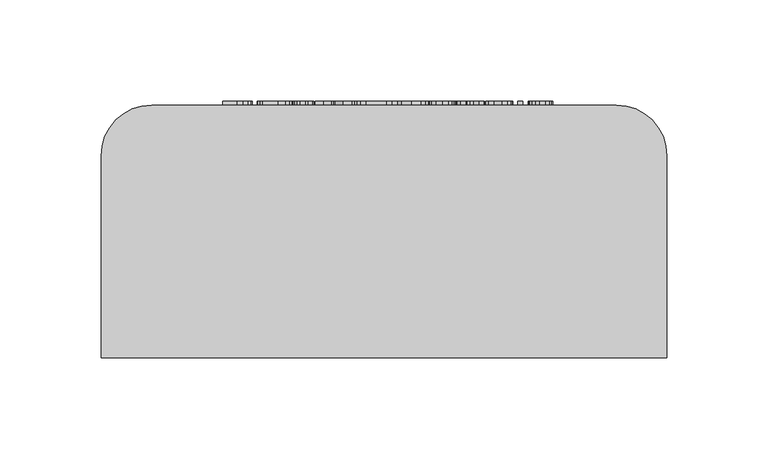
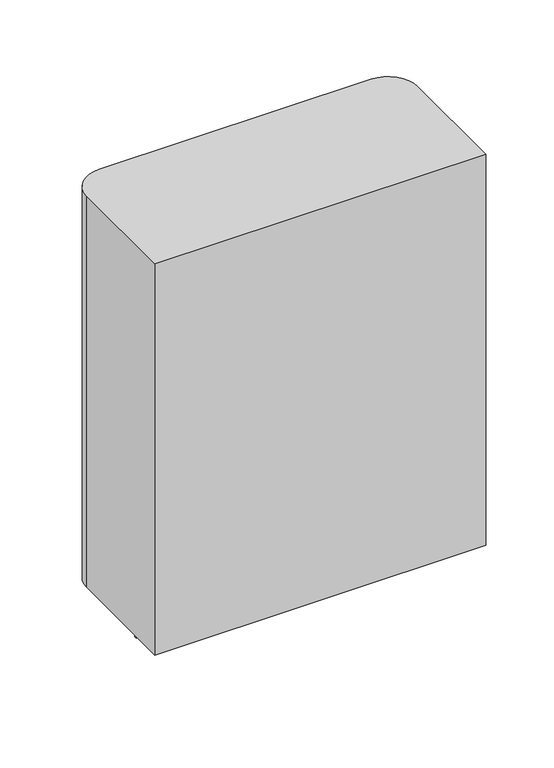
"""IFC4 building model written with IfcOpenShell, lengths in millimetres: furniture geometry, BIMHealth-Paper_Towel_Dispenser-LOD2A-v1 : BIMHealth-Paper_Towel_Dispenser-LOD2A-v1."""

from ifc_helpers import new_model, si_unit, frame, origin, place, context, project, spatial, polyline, circle_curve, outline, extrude, source, transform, mapped, element, save
from ifc_brep_helpers import plane_surface, cylinder_surface, revolved_surface, advanced_brep


def furniture_c0bff915(model_context):
    return source(origin(), model_context, "Body", "SolidModel", [
        extrude(outline(polyline([(1486.0993641, 80.0917119), (1486.0993641, 87.5484427), (1486.4383065, 90.7046927), (1487.4383065, 92.8465196), (1489.3229218, 94.2816158), (1491.9695565, 94.8609427), (1495.0320565, 94.012385), (1496.8685949, 91.5869042), (1498.6113834, 93.5845004), (1500.9118641, 94.2455581), (1503.4310949, 93.4595004), (1505.2123449, 91.2864234), (1505.7916718, 87.606135), (1505.7916718, 80.0917119), (1486.0993641, 80.0917119)]), holes=[polyline([(1497.7916718, 82.5532504), (1503.3301334, 82.5532504), (1503.3301334, 86.7070965), (1503.0729218, 89.8705581), (1502.1234026, 91.2888273), (1500.5176334, 91.7840196), (1498.914268, 91.2527696), (1498.0032103, 89.6734427), (1497.7916718, 87.0484427), (1497.7916718, 82.5532504)]), polyline([(1488.5609026, 82.5532504), (1495.3301334, 82.5532504), (1495.3301334, 87.3609427), (1495.0008065, 90.4018081), (1493.8589795, 91.9282504), (1491.945518, 92.3994042), (1489.1931141, 90.9739234), (1488.6570565, 89.4282504), (1488.5609026, 87.6013273), (1488.5609026, 82.5532504)])]), frame((0.0, 125.0, 0.0), z_axis=(0.0, 1.0, 0.0), x_axis=(0.0, 0.0, 1.0)), (0.0, 0.0, 1.0), 2.0),
        extrude(outline(polyline([(101.0147888, 127.0), (101.0147888, 125.0), (98.5532504, 125.0), (98.5532504, 127.0), (101.0147888, 127.0)])), frame((0.0, 0.0, 1486.0993641), z_axis=(0.0, 0.0, 1.0), x_axis=(1.0, 0.0, 0.0)), (0.0, 0.0, 1.0), 19.6923077),
        extrude(outline(polyline([(1486.0993641, 105.9378658), (1486.0993641, 108.3994042), (1503.3301334, 108.3994042), (1486.0993641, 113.3513273), (1486.0993641, 116.6830581), (1503.3301334, 121.6301734), (1486.0993641, 121.6301734), (1486.0993641, 124.0917119), (1505.7916718, 124.0917119), (1505.7916718, 119.856135), (1492.1522488, 115.8945965), (1489.0128257, 115.0147888), (1491.9118641, 114.1974811), (1505.7916718, 110.1590196), (1505.7916718, 105.9378658), (1486.0993641, 105.9378658)])), frame((0.0, 125.0, 0.0), z_axis=(0.0, 1.0, 0.0), x_axis=(0.0, 0.0, 1.0)), (0.0, 0.0, 1.0), 2.0),
        extrude(outline(polyline([(1486.0993641, 128.3994042), (1486.0993641, 130.8609427), (1495.3301334, 130.8609427), (1495.3301334, 141.3224811), (1486.0993641, 141.3224811), (1486.0993641, 143.7840196), (1505.7916718, 143.7840196), (1505.7916718, 141.3224811), (1497.7916718, 141.3224811), (1497.7916718, 130.8609427), (1505.7916718, 130.8609427), (1505.7916718, 128.3994042), (1486.0993641, 128.3994042)])), frame((0.0, 125.0, 0.0), z_axis=(0.0, 1.0, 0.0), x_axis=(0.0, 0.0, 1.0)), (0.0, 0.0, 1.0), 2.0),
        extrude(outline(polyline([(1490.4070565, 157.9090196), (1488.7676334, 156.3224811), (1488.2532103, 153.9090196), (1489.3637872, 150.7383465), (1492.5609026, 149.3224811), (1493.2243641, 160.3994042), (1498.8637872, 158.5316158), (1500.8685949, 153.7215196), (1498.8589795, 148.7695965), (1493.2099411, 146.8609427), (1487.7411911, 148.7503658), (1485.7916718, 153.8609427), (1486.9214795, 158.0652696), (1490.0993641, 160.3224811), (1490.4070565, 157.9090196)]), holes=[polyline([(1495.0224411, 149.3224811), (1497.4863834, 150.6806542), (1498.4070565, 153.7119042), (1497.2532103, 156.9522888), (1495.0224411, 157.9378658), (1495.0224411, 149.3224811)])]), frame((0.0, 125.0, 0.0), z_axis=(0.0, 1.0, 0.0), x_axis=(0.0, 0.0, 1.0)), (0.0, 0.0, 1.0), 2.0),
        extrude(outline(polyline([(1487.945518, 172.0917119), (1486.0993641, 172.7070965), (1486.0993641, 175.168635), (1488.1690757, 174.6782504), (1492.445518, 174.5532504), (1495.508018, 174.5532504), (1497.6618641, 174.4330581), (1499.3325372, 173.6782504), (1500.4310949, 171.9931542), (1500.8685949, 169.0099811), (1500.3734026, 165.762385), (1498.9647488, 163.6181542), (1496.5609026, 162.5532504), (1496.2532103, 165.0147888), (1497.9334988, 166.2022888), (1498.4070565, 168.6926734), (1497.695518, 171.4138273), (1495.3301334, 172.0772888), (1494.4839795, 167.8080581), (1494.1137872, 165.6782504), (1493.3060949, 163.9546927), (1491.8926334, 162.7167119), (1489.945518, 162.2455581), (1486.9599411, 163.4931542), (1485.7916718, 167.0676734), (1486.2772488, 169.7046927), (1487.945518, 172.0917119)]), holes=[polyline([(1492.5200372, 172.0845004), (1490.2676334, 171.6878658), (1488.8421526, 170.0820965), (1488.2532103, 167.5917119), (1491.7147488, 166.0027696), (1492.1137872, 168.1205581), (1492.5200372, 172.0845004)])]), frame((0.0, 125.0, 0.0), z_axis=(0.0, 1.0, 0.0), x_axis=(0.0, 0.0, 1.0)), (0.0, 0.0, 1.0), 2.0),
        extrude(outline(polyline([(180.3994042, 127.0), (180.3994042, 125.0), (177.9378658, 125.0), (177.9378658, 127.0), (180.3994042, 127.0)])), frame((0.0, 0.0, 1486.0993641), z_axis=(0.0, 0.0, 1.0), x_axis=(1.0, 0.0, 0.0)), (0.0, 0.0, 1.0), 19.6923077),
        extrude(outline(polyline([(1489.1450372, 188.0917119), (1498.0993641, 186.8609427), (1498.0993641, 189.3224811), (1500.5609026, 189.3224811), (1500.5609026, 186.8609427), (1505.5224411, 186.8609427), (1504.0753257, 184.3994042), (1500.5609026, 184.3994042), (1500.5609026, 182.5532504), (1498.0993641, 182.5532504), (1498.0993641, 184.3994042), (1490.0657103, 184.3994042), (1486.2003257, 185.7263273), (1485.7916718, 187.7888273), (1486.0272488, 189.6301734), (1489.1450372, 188.0917119)])), frame((0.0, 125.0, 0.0), z_axis=(0.0, 1.0, 0.0), x_axis=(0.0, 0.0, 1.0)), (0.0, 0.0, 1.0), 2.0),
        extrude(outline(polyline([(1486.0993641, 191.7840196), (1486.0993641, 194.2455581), (1493.7820565, 194.2455581), (1496.3734026, 194.6470004), (1497.8589795, 195.9931542), (1498.4070565, 198.0099811), (1497.5945565, 200.231135), (1494.9984026, 201.0147888), (1486.0993641, 201.0147888), (1486.0993641, 203.4763273), (1495.2532103, 203.4763273), (1498.4887872, 202.9715196), (1500.2363834, 201.293635), (1500.8685949, 198.5292119), (1498.5512872, 194.2455581), (1505.7916718, 194.2455581), (1505.7916718, 191.7840196), (1486.0993641, 191.7840196)])), frame((0.0, 125.0, 0.0), z_axis=(0.0, 1.0, 0.0), x_axis=(0.0, 0.0, 1.0)), (0.0, 0.0, 1.0), 2.0),
        extrude(outline(polyline([(1403.5993641, 60.0917119), (1403.5993641, 62.5532504), (1411.5993641, 62.5532504), (1411.5993641, 67.5580581), (1413.3397488, 73.2768081), (1417.5945565, 74.8609427), (1420.2796526, 74.2744042), (1422.1834988, 72.7239234), (1423.1041718, 70.3320965), (1423.2916718, 67.3897888), (1423.2916718, 60.0917119), (1403.5993641, 60.0917119)]), holes=[polyline([(1414.0609026, 62.5532504), (1420.8301334, 62.5532504), (1420.8301334, 67.6445965), (1420.6618641, 70.106135), (1419.5464795, 71.7671927), (1417.508018, 72.3994042), (1414.9647488, 71.3272888), (1414.0609026, 67.7022888), (1414.0609026, 62.5532504)])]), frame((0.0, 125.0, 0.0), z_axis=(0.0, 1.0, 0.0), x_axis=(0.0, 0.0, 1.0)), (0.0, 0.0, 1.0), 2.0),
        extrude(outline(polyline([(1405.445518, 87.168635), (1403.5993641, 87.7840196), (1403.5993641, 90.2455581), (1405.6690757, 89.7551734), (1409.945518, 89.6301734), (1413.008018, 89.6301734), (1415.1618641, 89.5099811), (1416.8325372, 88.7551734), (1417.9310949, 87.0700773), (1418.3685949, 84.0869042), (1417.8734026, 80.8393081), (1416.4647488, 78.6950773), (1414.0609026, 77.6301734), (1413.7532103, 80.0917119), (1415.4334988, 81.2792119), (1415.9070565, 83.7695965), (1415.195518, 86.4907504), (1412.8301334, 87.1542119), (1411.9839795, 82.8849811), (1411.6137872, 80.7551734), (1410.8060949, 79.0316158), (1409.3926334, 77.793635), (1407.445518, 77.3224811), (1404.4599411, 78.5700773), (1403.2916718, 82.1445965), (1403.7772488, 84.7816158), (1405.445518, 87.168635)]), holes=[polyline([(1410.0200372, 87.1614234), (1407.7676334, 86.7647888), (1406.3421526, 85.1590196), (1405.7532103, 82.668635), (1409.2147488, 81.0796927), (1409.6137872, 83.1974811), (1410.0200372, 87.1614234)])]), frame((0.0, 125.0, 0.0), z_axis=(0.0, 1.0, 0.0), x_axis=(0.0, 0.0, 1.0)), (0.0, 0.0, 1.0), 2.0),
        extrude(outline(polyline([(1398.0609026, 93.0147888), (1398.0609026, 95.4763273), (1405.5224411, 95.4763273), (1403.9238834, 97.0364234), (1403.2916718, 99.1782504), (1404.2363834, 102.2912311), (1406.9527295, 104.5460388), (1410.9407103, 105.3224811), (1414.7339795, 104.6349811), (1417.4166718, 102.5965196), (1418.3685949, 99.4763273), (1417.6883065, 97.1782504), (1415.6474411, 95.4763273), (1418.0609026, 95.4763273), (1418.0609026, 93.0147888), (1398.0609026, 93.0147888)]), holes=[polyline([(1410.7147488, 95.4763273), (1414.5777295, 96.6133465), (1415.9070565, 99.2263273), (1414.6570565, 101.7888273), (1410.8974411, 102.8609427), (1407.008018, 101.762385), (1405.7532103, 99.1253658), (1406.9647488, 96.5412311), (1410.7147488, 95.4763273)])]), frame((0.0, 125.0, 0.0), z_axis=(0.0, 1.0, 0.0), x_axis=(0.0, 0.0, 1.0)), (0.0, 0.0, 1.0), 2.0),
        extrude(outline(polyline([(1407.9070565, 118.2167119), (1406.2676334, 116.6301734), (1405.7532103, 114.2167119), (1406.8637872, 111.0460388), (1410.0609026, 109.6301734), (1410.7243641, 120.7070965), (1416.3637872, 118.8393081), (1418.3685949, 114.0292119), (1416.3589795, 109.0772888), (1410.7099411, 107.168635), (1405.2411911, 109.0580581), (1403.2916718, 114.168635), (1404.4214795, 118.3729619), (1407.5993641, 120.6301734), (1407.9070565, 118.2167119)]), holes=[polyline([(1412.5224411, 109.6301734), (1414.9863834, 110.9883465), (1415.9070565, 114.0195965), (1414.7532103, 117.2599811), (1412.5224411, 118.2455581), (1412.5224411, 109.6301734)])]), frame((0.0, 125.0, 0.0), z_axis=(0.0, 1.0, 0.0), x_axis=(0.0, 0.0, 1.0)), (0.0, 0.0, 1.0), 2.0),
        extrude(outline(polyline([(1403.5993641, 123.168635), (1403.5993641, 125.6301734), (1411.2003257, 125.6301734), (1414.0753257, 126.0292119), (1415.9070565, 128.3080581), (1415.4022488, 130.0388273), (1417.6089795, 130.8609427), (1418.3685949, 128.3897888), (1417.8926334, 126.8513273), (1415.9214795, 125.3224811), (1418.0609026, 125.3224811), (1418.0609026, 123.168635), (1403.5993641, 123.168635)])), frame((0.0, 125.0, 0.0), z_axis=(0.0, 1.0, 0.0), x_axis=(0.0, 0.0, 1.0)), (0.0, 0.0, 1.0), 2.0),
        extrude(outline(polyline([(1403.5993641, 145.3224811), (1403.5993641, 147.7840196), (1420.8301334, 147.7840196), (1420.8301334, 154.2455581), (1423.2916718, 154.2455581), (1423.2916718, 138.8609427), (1420.8301334, 138.8609427), (1420.8301334, 145.3224811), (1403.5993641, 145.3224811)])), frame((0.0, 125.0, 0.0), z_axis=(0.0, 1.0, 0.0), x_axis=(0.0, 0.0, 1.0)), (0.0, 0.0, 1.0), 2.0),
        extrude(outline(polyline([(1410.8301334, 156.0917119), (1405.2339795, 157.8777696), (1403.2916718, 162.5580581), (1404.1738834, 165.8921927), (1406.6522488, 168.2167119), (1411.0320565, 169.0147888), (1416.4190757, 167.2095004), (1418.3685949, 162.5580581), (1416.7676334, 158.2215196), (1410.8301334, 156.0917119)]), holes=[polyline([(1410.8349411, 158.5532504), (1414.6450372, 159.6926734), (1415.9070565, 162.5580581), (1414.6402295, 165.4066158), (1410.9118641, 166.5532504), (1407.0272488, 165.4138273), (1405.7532103, 162.5580581), (1407.0200372, 159.6926734), (1410.8349411, 158.5532504)])]), frame((0.0, 125.0, 0.0), z_axis=(0.0, 1.0, 0.0), x_axis=(0.0, 0.0, 1.0)), (0.0, 0.0, 1.0), 2.0),
        extrude(outline(polyline([(1403.5993641, 174.2022888), (1403.5993641, 177.1926734), (1414.7243641, 179.6301734), (1412.0801334, 180.1782504), (1403.5993641, 182.0724811), (1403.5993641, 185.043635), (1418.0609026, 189.4763273), (1418.0609026, 186.9090196), (1409.6810949, 184.4090196), (1406.9070565, 183.6301734), (1409.5368641, 183.0869042), (1418.0609026, 181.1013273), (1418.0609026, 178.1782504), (1409.5128257, 176.1926734), (1406.6089795, 175.5820965), (1409.6234026, 174.8369042), (1418.0609026, 172.3369042), (1418.0609026, 169.7840196), (1403.5993641, 174.2022888)])), frame((0.0, 125.0, 0.0), z_axis=(0.0, 1.0, 0.0), x_axis=(0.0, 0.0, 1.0)), (0.0, 0.0, 1.0), 2.0),
        extrude(outline(polyline([(1407.9070565, 201.293635), (1406.2676334, 199.7070965), (1405.7532103, 197.293635), (1406.8637872, 194.1229619), (1410.0609026, 192.7070965), (1410.7243641, 203.7840196), (1416.3637872, 201.9162311), (1418.3685949, 197.106135), (1416.3589795, 192.1542119), (1410.7099411, 190.2455581), (1405.2411911, 192.1349811), (1403.2916718, 197.2455581), (1404.4214795, 201.449885), (1407.5993641, 203.7070965), (1407.9070565, 201.293635)]), holes=[polyline([(1412.5224411, 192.7070965), (1414.9863834, 194.0652696), (1415.9070565, 197.0965196), (1414.7532103, 200.3369042), (1412.5224411, 201.3224811), (1412.5224411, 192.7070965)])]), frame((0.0, 125.0, 0.0), z_axis=(0.0, 1.0, 0.0), x_axis=(0.0, 0.0, 1.0)), (0.0, 0.0, 1.0), 2.0),
        extrude(outline(polyline([(208.7070965, 127.0), (208.7070965, 125.0), (206.2455581, 125.0), (206.2455581, 127.0), (208.7070965, 127.0)])), frame((0.0, 0.0, 1403.5993641), z_axis=(0.0, 0.0, 1.0), x_axis=(1.0, 0.0, 0.0)), (0.0, 0.0, 1.0), 19.6923077),
        extrude(outline(polyline([(1407.9070565, 211.4763273), (1404.4551334, 213.3609427), (1403.2916718, 217.6542119), (1403.8950372, 220.7022888), (1405.6041718, 222.762385), (1407.9599411, 223.4763273), (1410.0993641, 222.8681542), (1411.4118641, 221.1902696), (1412.570518, 217.5772888), (1415.4407103, 214.9522888), (1415.9070565, 217.3080581), (1415.4190757, 219.4739234), (1414.0609026, 220.3994042), (1414.3685949, 222.8609427), (1416.5777295, 222.0147888), (1417.8854218, 220.1109427), (1418.3685949, 217.1157504), (1418.0681141, 214.9979619), (1417.3397488, 213.4330581), (1415.9383065, 212.2263273), (1414.1041718, 211.7840196), (1412.1185949, 212.3345004), (1410.7123449, 213.9522888), (1409.508018, 217.6590196), (1407.7003257, 221.0147888), (1406.3349411, 220.1974811), (1405.7532103, 217.6878658), (1406.3878257, 215.0772888), (1408.2147488, 213.9378658), (1407.9070565, 211.4763273)])), frame((0.0, 125.0, 0.0), z_axis=(0.0, 1.0, 0.0), x_axis=(0.0, 0.0, 1.0)), (0.0, 0.0, 1.0), 2.0),
        extrude(outline(polyline([(252.5, 75.0), (27.5, 75.0), (27.5, 77.0), (252.5, 77.0), (252.5, 75.0)])), frame((0.0, 0.0, 1160.0), z_axis=(0.0, 0.0, 1.0), x_axis=(1.0, 0.0, 0.0)), (0.0, 0.0, 1.0), 40.0),
        advanced_brep(
        [(255.0, 125.0, 1550.0), (25.0, 125.0, 1550.0), (0.0, 100.0, 1550.0), (0.0, 0.0, 1550.0), (280.0, 0.0, 1550.0), (280.0, 100.0, 1550.0), (255.0, 125.0, 1200.0), (280.0, 100.0, 1200.0), (280.0, 0.0, 1200.0), (0.0, 0.0, 1200.0), (0.0, 100.0, 1200.0), (25.0, 125.0, 1200.0), (260.0, 70.0, 1200.0), (260.0, 80.0, 1200.0), (20.0, 80.0, 1200.0), (20.0, 70.0, 1200.0), (280.0, 0.0, 1545.0), (280.0, 0.0, 1205.0), (280.0, 100.0, 1205.0), (280.0, 100.0, 1545.0), (0.0, 100.0, 1545.0), (0.0, 100.0, 1205.0), (0.0, 0.0, 1205.0), (0.0, 0.0, 1545.0), (255.0, 125.0, 1545.0), (255.0, 125.0, 1205.0), (25.0, 125.0, 1205.0), (25.0, 125.0, 1545.0), (275.0, 5.0, 1545.0), (275.0, 5.0, 1205.0), (5.0, 5.0, 1205.0), (5.0, 5.0, 1545.0), (275.0, 100.0, 1545.0), (275.0, 100.0, 1205.0), (255.0, 120.0, 1545.0), (255.0, 120.0, 1205.0), (25.0, 120.0, 1545.0), (25.0, 120.0, 1205.0), (5.0, 100.0, 1545.0), (5.0, 100.0, 1205.0), (260.0, 70.0, 1205.0), (20.0, 70.0, 1205.0), (20.0, 80.0, 1205.0), (260.0, 80.0, 1205.0)],
        [
            (0, 1),
            (1, 2, circle_curve(frame((25.0, 100.0, 1550.0), z_axis=(0.0, 0.0, 1.0), x_axis=(1.0, 0.0, 0.0)), 25.0)),
            (2, 3),
            (3, 4),
            (4, 5),
            (5, 0, circle_curve(frame((255.0, 100.0, 1550.0), z_axis=(0.0, 0.0, 1.0), x_axis=(-1.0, 0.0, 0.0)), 25.0)),
            (6, 7, circle_curve(frame((255.0, 100.0, 1200.0), z_axis=(0.0, 0.0, -1.0), x_axis=(-1.0, 0.0, 0.0)), 25.0)),
            (7, 8),
            (8, 9),
            (9, 10),
            (10, 11, circle_curve(frame((25.0, 100.0, 1200.0), z_axis=(0.0, 0.0, -1.0), x_axis=(1.0, 0.0, 0.0)), 25.0)),
            (11, 6),
            (12, 13),
            (13, 14),
            (14, 15),
            (15, 12),
            (4, 16),
            (16, 17),
            (17, 8),
            (7, 18),
            (18, 19),
            (19, 5),
            (2, 20),
            (20, 21),
            (21, 10),
            (9, 22),
            (22, 23),
            (23, 3),
            (0, 24),
            (24, 25),
            (25, 6),
            (11, 26),
            (26, 27),
            (27, 1),
            (28, 29),
            (29, 30),
            (30, 31),
            (31, 28),
            (32, 33),
            (33, 29),
            (28, 32),
            (34, 35),
            (35, 33, circle_curve(frame((255.0, 100.0, 1205.0), z_axis=(0.0, 0.0, -1.0), x_axis=(-1.0, 0.0, 0.0)), 20.0)),
            (32, 34, circle_curve(frame((255.0, 100.0, 1545.0), z_axis=(0.0, 0.0, 1.0), x_axis=(-1.0, 0.0, 0.0)), 20.0)),
            (36, 37),
            (37, 35),
            (34, 36),
            (38, 39),
            (39, 37, circle_curve(frame((25.0, 100.0, 1205.0), z_axis=(0.0, 0.0, -1.0), x_axis=(1.0, 0.0, 0.0)), 20.0)),
            (36, 38, circle_curve(frame((25.0, 100.0, 1545.0), z_axis=(0.0, 0.0, 1.0), x_axis=(1.0, 0.0, 0.0)), 20.0)),
            (30, 39),
            (38, 31),
            (40, 41),
            (41, 42),
            (42, 43),
            (43, 40),
            (43, 13),
            (12, 40),
            (42, 14),
            (41, 15),
        ],
        [
            plane_surface(frame((230.0, 100.0, 1550.0), z_axis=(0.0, 0.0, 1.0), x_axis=(0.0, 1.0, 0.0))),
            plane_surface(frame((230.0, 100.0, 1200.0), z_axis=(0.0, 0.0, -1.0), x_axis=(0.0, -1.0, 0.0))),
            plane_surface(frame((280.0, 100.0, 1550.0), z_axis=(1.0, 0.0, 0.0), x_axis=(0.0, 0.0, -1.0))),
            plane_surface(frame((0.0, 75.0, 1550.0), z_axis=(-1.0, 0.0, 0.0), x_axis=(0.0, 0.0, -1.0))),
            plane_surface(frame((25.0, 125.0, 1550.0), z_axis=(0.0, 1.0, 0.0), x_axis=(0.0, 0.0, -1.0))),
            cylinder_surface(frame((255.0, 100.0, 1200.0), z_axis=(0.0, 0.0, 1.0), x_axis=(-1.0, 0.0, 0.0)), 25.0),
            cylinder_surface(frame((25.0, 100.0, 1200.0), z_axis=(0.0, 0.0, 1.0), x_axis=(1.0, 0.0, 0.0)), 25.0),
            plane_surface(frame((280.0, 0.0, 1550.0), z_axis=(0.0, -1.0, 0.0), x_axis=(0.0, 0.0, -1.0))),
            plane_surface(frame((5.0, 5.0, 1550.0), z_axis=(0.0, 1.0, 0.0), x_axis=(0.0, 0.0, -1.0))),
            plane_surface(frame((275.0, 75.0, 1550.0), z_axis=(-1.0, 0.0, 0.0), x_axis=(0.0, 0.0, -1.0))),
            revolved_surface(polyline([(235.0, 100.0, 1205.0), (235.0, 100.0, 1545.0)]), (255.0, 100.0, 1200.0), (0.0, 0.0, -1.0)),
            plane_surface(frame((255.0, 120.0, 1550.0), z_axis=(0.0, -1.0, 0.0), x_axis=(0.0, 0.0, -1.0))),
            revolved_surface(polyline([(45.0, 100.0, 1205.0), (45.0, 100.0, 1545.0)]), (25.0, 100.0, 1200.0), (0.0, 0.0, -1.0)),
            plane_surface(frame((5.0, 100.0, 1550.0), z_axis=(1.0, 0.0, 0.0), x_axis=(0.0, 0.0, -1.0))),
            plane_surface(frame((0.0, 0.0, 1545.0), z_axis=(0.0, 0.0, -1.0), x_axis=(1.0, 0.0, 0.0))),
            plane_surface(frame((-55.0, 0.0, 1205.0), z_axis=(0.0, 0.0, 1.0), x_axis=(-1.0, 0.0, 0.0))),
            plane_surface(frame((260.0, 70.0, 1205.0), z_axis=(-1.0, 0.0, 0.0), x_axis=(0.0, 0.0, -1.0))),
            plane_surface(frame((260.0, 80.0, 1205.0), z_axis=(0.0, -1.0, 0.0), x_axis=(0.0, 0.0, -1.0))),
            plane_surface(frame((20.0, 80.0, 1205.0), z_axis=(1.0, 0.0, 0.0), x_axis=(0.0, 0.0, -1.0))),
            plane_surface(frame((20.0, 70.0, 1205.0), z_axis=(0.0, 1.0, 0.0), x_axis=(0.0, 0.0, -1.0))),
        ],
        [
            (0, [[1, 2, 3, 4, 5, 6]]),
            (1, [[7, 8, 9, 10, 11, 12], [13, 14, 15, 16]]),
            (2, [[-5, 17, 18, 19, -8, 20, 21, 22]]),
            (3, [[23, 24, 25, -10, 26, 27, 28, -3]]),
            (4, [[29, 30, 31, -12, 32, 33, 34, -1]]),
            (5, [[-22, -21, -20, -7, -31, -30, -29, -6]]),
            (6, [[-34, -33, -32, -11, -25, -24, -23, -2]]),
            (7, [[-28, -27, -26, -9, -19, -18, -17, -4]]),
            (8, [[35, 36, 37, 38]]),
            (9, [[39, 40, -35, 41]]),
            (10, [[42, 43, -39, 44]]),
            (11, [[45, 46, -42, 47]]),
            (12, [[48, 49, -45, 50]]),
            (13, [[-37, 51, -48, 52]]),
            (14, [[-38, -52, -50, -47, -44, -41]]),
            (15, [[-43, -46, -49, -51, -36, -40], [53, 54, 55, 56]]),
            (16, [[57, -13, 58, -56]]),
            (17, [[59, -14, -57, -55]]),
            (18, [[60, -15, -59, -54]]),
            (19, [[-58, -16, -60, -53]]),
        ],
    ),
    ])


if __name__ == "__main__":
    model = new_model("IFC4")
    model_context = context("Model", 3, world=origin())
    ifc_project = project(units=[si_unit("LENGTHUNIT", "METRE", prefix="MILLI")], contexts=[model_context])
    site = spatial("IfcSite", under=ifc_project)
    building = spatial("IfcBuilding", under=site)
    placement = place(None, origin())
    furniture_shape = furniture_c0bff915(model_context)
    element("IfcFurniture", 1, ObjectType="BIMHealth-Paper_Towel_Dispenser-LOD2A-v1 : BIMHealth-Paper_Towel_Dispenser-LOD2A-v1", at=placement, inside=building, context=model_context, shape_type="MappedRepresentation", body=[
        mapped(furniture_shape, transform((0.0, 0.0, 0.0), x_axis=(1.0, 0.0, 0.0), y_axis=(0.0, 1.0, 0.0), z_axis=(0.0, 0.0, 1.0))),
    ])
    save(model, "model.ifc")
